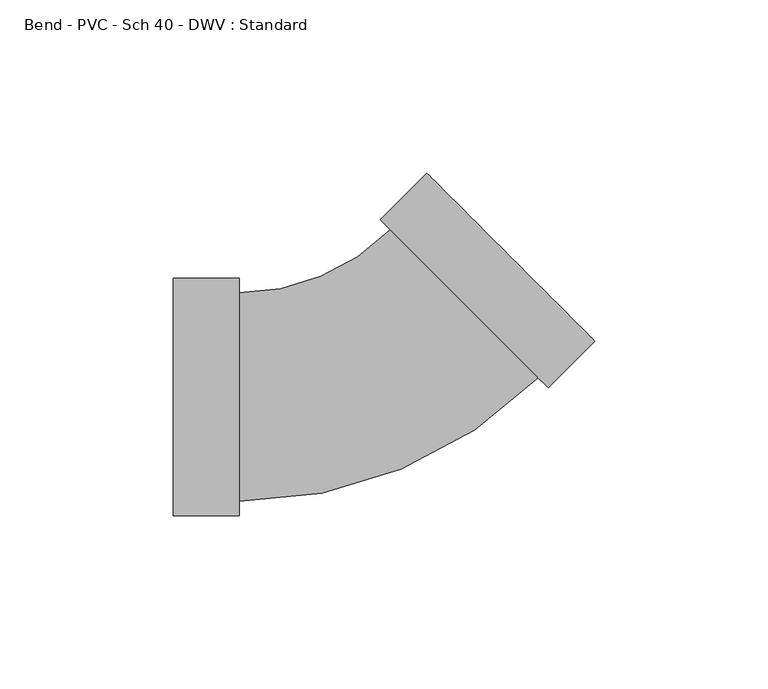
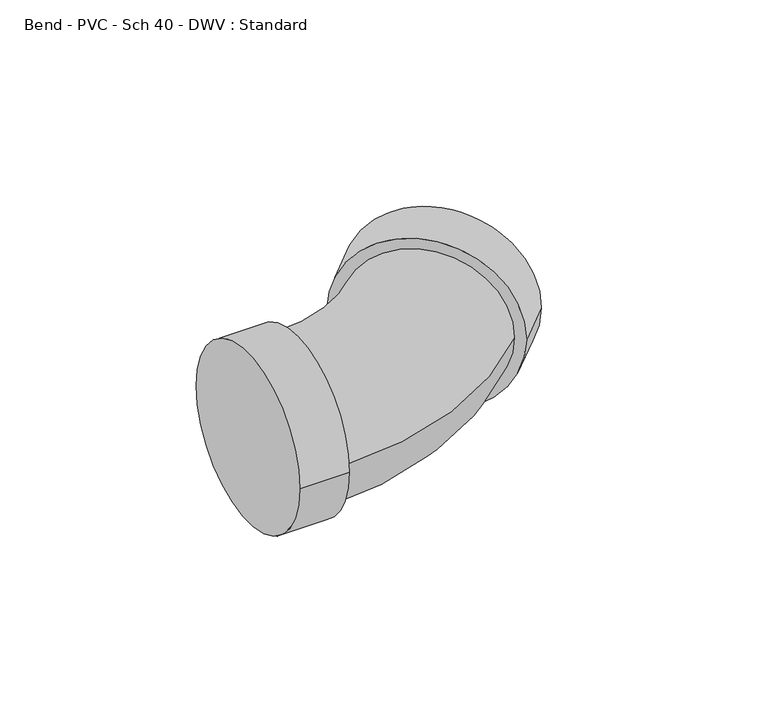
"""IFC4 building model written with IfcOpenShell, lengths in millimetres: pipe fitting geometry, Bend - PVC - Sch 40 - DWV : Standard."""

from ifc_helpers import new_model, si_unit, point, frame, origin, place, context, project, spatial, circle_curve, ellipse_curve, trimmed, source, transform, mapped, element, save
from ifc_brep_helpers import plane_surface, cylinder_surface, revolved_surface, advanced_brep


def bend_pvc_sch_40_dwv_standard_ed0e40d1(model_context):
    return source(origin(), model_context, "Body", "AdvancedBrep", [
        advanced_brep(
        [(-57.15, -34.3154, 0.0), (-57.15, 34.3154, 0.0), (-38.1, -34.3154, 0.0), (-38.1, 34.3154, 0.0), (-38.1, -30.1625, 0.0), (-38.1, 30.1625, 0.0), (5.6126601, 48.2688767, 0.0), (48.2688766, 5.6126601, 0.0), (51.2054204, 2.6761163, 0.0), (2.6761163, 51.2054204, 0.0), (64.6758046, 16.1465005, 0.0), (16.1465005, 64.6758046, 0.0)],
        [
            (0, 1, circle_curve(frame((-57.15, 0.0, 0.0), z_axis=(-1.0, 0.0, 0.0), x_axis=(0.0, 1.0, 0.0)), 34.3154)),
            (1, 0, circle_curve(frame((-57.15, 0.0, 0.0), z_axis=(-1.0, 0.0, 0.0), x_axis=(0.0, 1.0, 0.0)), 34.3154)),
            (2, 3, circle_curve(frame((-38.1, 0.0, 0.0), z_axis=(1.0, 0.0, 0.0), x_axis=(0.0, 1.0, 0.0)), 34.3154)),
            (3, 2, circle_curve(frame((-38.1, 0.0, 0.0), z_axis=(1.0, 0.0, 0.0), x_axis=(0.0, 1.0, 0.0)), 34.3154)),
            (4, 5, circle_curve(frame((-38.1, 0.0, 0.0), z_axis=(-1.0, 0.0, 0.0), x_axis=(0.0, 1.0, 0.0)), 30.1625)),
            (5, 4, circle_curve(frame((-38.1, 0.0, 0.0), z_axis=(-1.0, 0.0, 0.0), x_axis=(0.0, 1.0, 0.0)), 30.1625)),
            (0, 2),
            (3, 1),
            (6, 5, circle_curve(frame((-38.1, 91.9815367, 0.0), z_axis=(0.0, 0.0, -1.0), x_axis=(0.0, -1.0, 0.0)), 61.8190367)),
            (4, 7, circle_curve(frame((-38.1, 91.9815367, 0.0), z_axis=(0.0, 0.0, 1.0), x_axis=(0.0, -1.0, 0.0)), 122.1440367)),
            (7, 6, circle_curve(frame((26.9407684, 26.9407684, 0.0), z_axis=(-0.7071067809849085, -0.7071067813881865, 0.0), x_axis=(-0.7071067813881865, 0.7071067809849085, 0.0)), 30.1625)),
            (6, 7, circle_curve(frame((26.9407684, 26.9407684, 0.0), z_axis=(-0.7071067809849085, -0.7071067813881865, 0.0), x_axis=(-0.7071067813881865, 0.7071067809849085, 0.0)), 30.1625)),
            (8, 9, circle_curve(frame((26.9407684, 26.9407684, 0.0), z_axis=(-0.70710678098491, -0.7071067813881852, 0.0), x_axis=(-0.7071067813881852, 0.70710678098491, 0.0)), 34.3154)),
            (9, 8, circle_curve(frame((26.9407684, 26.9407684, 0.0), z_axis=(-0.70710678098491, -0.7071067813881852, 0.0), x_axis=(-0.7071067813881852, 0.70710678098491, 0.0)), 34.3154)),
            (10, 11, circle_curve(frame((40.4111525, 40.4111526, 0.0), z_axis=(0.70710678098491, 0.7071067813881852, 0.0), x_axis=(-0.7071067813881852, 0.70710678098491, 0.0)), 34.3154)),
            (11, 10, circle_curve(frame((40.4111525, 40.4111526, 0.0), z_axis=(0.70710678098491, 0.7071067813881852, 0.0), x_axis=(-0.7071067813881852, 0.70710678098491, 0.0)), 34.3154)),
            (8, 10),
            (11, 9),
        ],
        [
            plane_surface(frame((-57.15, 0.0, 0.0), z_axis=(-1.0, 0.0, 0.0), x_axis=(0.0, 0.0, 1.0))),
            plane_surface(frame((-38.1, 0.0, 0.0), z_axis=(1.0, 0.0, 0.0), x_axis=(0.0, 0.0, 1.0))),
            cylinder_surface(frame((-57.15, 0.0, 0.0), z_axis=(-1.0, 0.0, 0.0), x_axis=(0.0, 1.0, 0.0)), 34.3154),
            revolved_surface(trimmed(ellipse_curve(frame((-38.1, 0.0, 0.0), z_axis=(-1.0, 0.0, 0.0), x_axis=(0.0, 1.0, 0.0)), 30.1625, 30.1625), [point((-38.1, -30.1625, 0.0))], [point((-38.1, 30.1625, 0.0))], True, "CARTESIAN"), (-38.1, 91.9815367, 0.0), (0.0, 0.0, 1.0)),
            revolved_surface(trimmed(ellipse_curve(frame((-38.1, 0.0, 0.0), z_axis=(-1.0, 0.0, 0.0), x_axis=(0.0, 1.0, 0.0)), 30.1625, 30.1625), [point((-38.1, 30.1625, 0.0))], [point((-38.1, -30.1625, 0.0))], True, "CARTESIAN"), (-38.1, 91.9815367, 0.0), (0.0, 0.0, 1.0)),
            plane_surface(frame((26.9407684, 26.9407684, 0.0), z_axis=(-0.70710678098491, -0.7071067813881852, 0.0), x_axis=(0.0, 0.0, 1.0))),
            plane_surface(frame((40.4111525, 40.4111526, 0.0), z_axis=(0.70710678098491, 0.7071067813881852, 0.0), x_axis=(0.0, 0.0, 1.0))),
            cylinder_surface(frame((26.9407684, 26.9407684, 0.0), z_axis=(-0.70710678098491, -0.7071067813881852, 0.0), x_axis=(-0.7071067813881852, 0.70710678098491, 0.0)), 34.3154),
        ],
        [
            (0, [[1, 2]]),
            (1, [[3, 4], [5, 6]]),
            (2, [[-1, 7, -4, 8]]),
            (2, [[-2, -8, -3, -7]]),
            (3, [[9, -5, 10, 11]]),
            (4, [[-9, 12, -10, -6]]),
            (5, [[13, 14], [-11, -12]]),
            (6, [[15, 16]]),
            (7, [[-13, 17, -16, 18]]),
            (7, [[-14, -18, -15, -17]]),
        ],
    ),
    ])


if __name__ == "__main__":
    model = new_model("IFC4")
    model_context = context("Model", 3, world=origin())
    ifc_project = project(units=[si_unit("LENGTHUNIT", "METRE", prefix="MILLI")], contexts=[model_context])
    site = spatial("IfcSite", under=ifc_project)
    building = spatial("IfcBuilding", under=site)
    placement = place(None, origin())
    bend_pvc_sch_40_dwv_standard_shape = bend_pvc_sch_40_dwv_standard_ed0e40d1(model_context)
    element("IfcPipeFitting", 1, ObjectType="Bend - PVC - Sch 40 - DWV : Standard", at=placement, inside=building, context=model_context, shape_type="MappedRepresentation", body=[
        mapped(bend_pvc_sch_40_dwv_standard_shape, transform((0.0, 0.0, 0.0), x_axis=(1.0, 0.0, 0.0), y_axis=(0.0, 1.0, 0.0), z_axis=(0.0, 0.0, 1.0))),
    ])
    save(model, "model.ifc")
